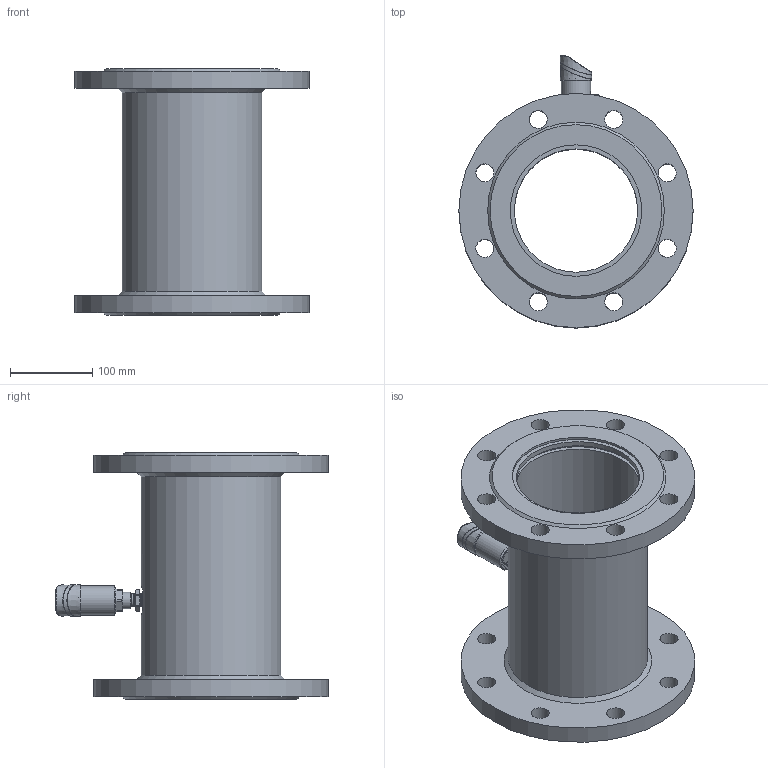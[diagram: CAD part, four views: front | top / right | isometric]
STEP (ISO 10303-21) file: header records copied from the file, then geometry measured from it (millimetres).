
FILE_DESCRIPTION( (''), '2;1');
FILE_NAME( 'QTKE_DN150_flange.step', '2024-10-14T15:12:37+08:00', (''), (''), '', '', '');
FILE_SCHEMA (('AUTOMOTIVE_DESIGN { 1 0 10303 214 3 1 1 1 }'));
Length unit declared in the file: millimetre
Products named in the file (1): QTKE DN150_flange
Bounding box: 285 x 331 x 300 mm (x, y, z)
Volume: 3218967 mm3; surface area: 534779.2 mm2
Topology: 5 solids, 6 shells, 734 faces, 1916 edges, 1260 vertices
Faces by surface type: plane 271, cylinder 149, extrusion 141, cone 72, bspline 58, torus 32, sphere 11
Full cylindrical faces by diameter (mm): 1.689 x1, 2.7 x3, 12 x1, 15.9 x1, 16.5 x2, 20 x1, 22 x16, 23 x3, 26 x5, 35.5 x1, 37.001 x1, 150 x3, 160 x4, 170 x1, 285 x2
Entity records: 32046 total; most frequent: CARTESIAN_POINT 13812, ORIENTED_EDGE 3564, DIRECTION 2893, EDGE_CURVE 1782, VERTEX_POINT 1206, AXIS2_PLACEMENT_3D 972, VECTOR 949, EDGE_LOOP 918
